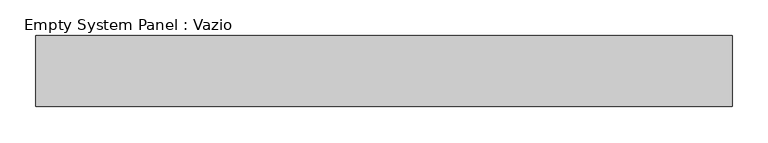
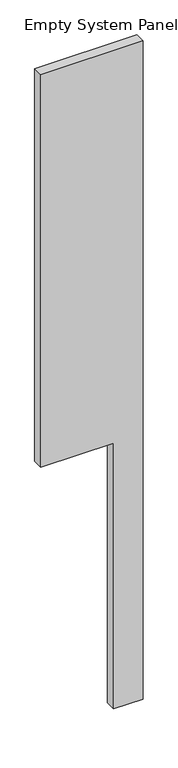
"""IFC4 building model written with IfcOpenShell, lengths in millimetres: plate geometry, Empty System Panel : Vazio."""

from ifc_helpers import new_model, si_unit, frame, origin, place, context, project, spatial, polyline, outline, extrude, source, transform, mapped, element, save


def empty_system_panel_vazio_4ffc9ecd(model_context):
    return source(origin(), model_context, "Body", "SweptSolid", [
        extrude(outline(polyline([(0.0, 208.4341599), (0.0, 490.0), (6670.0082767, 490.0), (6670.0082767, -490.0), (2693.4139301, -490.0), (2693.0813774, 208.4341599), (0.0, 208.4341599)])), frame((0.0, 50.0, 0.0), z_axis=(0.0, 1.0, 0.0), x_axis=(0.0, 0.0, 1.0)), (0.0, 0.0, 1.0), 100.0),
    ])


if __name__ == "__main__":
    model = new_model("IFC4")
    model_context = context("Model", 3, world=origin())
    ifc_project = project(units=[si_unit("LENGTHUNIT", "METRE", prefix="MILLI")], contexts=[model_context])
    site = spatial("IfcSite", under=ifc_project)
    building = spatial("IfcBuilding", under=site)
    placement = place(None, origin())
    empty_system_panel_vazio_shape = empty_system_panel_vazio_4ffc9ecd(model_context)
    element("IfcPlate", 1, ObjectType="Empty System Panel : Vazio", at=placement, inside=building, context=model_context, shape_type="MappedRepresentation", body=[
        mapped(empty_system_panel_vazio_shape, transform((0.0, 0.0, 0.0), x_axis=(1.0, 0.0, 0.0), y_axis=(0.0, 1.0, 0.0), z_axis=(0.0, 0.0, 1.0))),
    ])
    save(model, "model.ifc")
